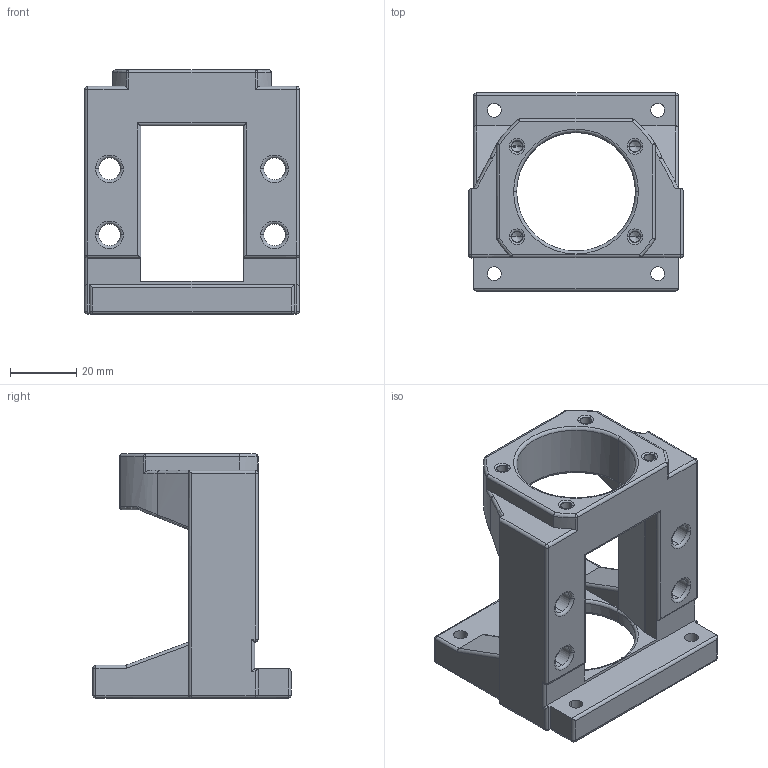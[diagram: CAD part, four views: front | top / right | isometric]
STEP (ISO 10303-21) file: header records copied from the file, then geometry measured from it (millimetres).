
FILE_DESCRIPTION (( 'STEP AP203' ), '1' );
FILE_NAME ('MBL10-DP.STEP', '2017-12-28T06:05:13', ( '' ), ( '' ), 'SwSTEP 2.0', 'SolidWorks 2017', '' );
FILE_SCHEMA (( 'CONFIG_CONTROL_DESIGN' ));
Length unit declared in the file: millimetre
Products named in the file (1): MBL10-DP
Bounding box: 65 x 60 x 74 mm (x, y, z)
Volume: 72380.9 mm3; surface area: 24712.9 mm2
Topology: 1 solids, 1 shells, 245 faces, 600 edges, 334 vertices
Faces by surface type: cylinder 106, plane 45, torus 38, cone 24, sphere 22, bspline 10
Entity records: 7381 total; most frequent: CARTESIAN_POINT 1722, DIRECTION 1236, ORIENTED_EDGE 1144, EDGE_CURVE 572, AXIS2_PLACEMENT_3D 496, VERTEX_POINT 334, EDGE_LOOP 272, CIRCLE 260
